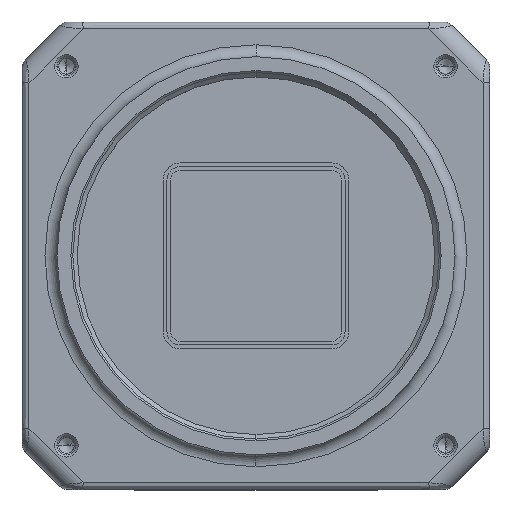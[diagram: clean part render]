
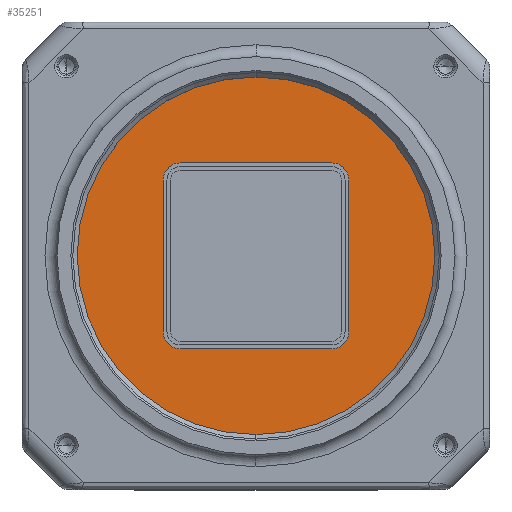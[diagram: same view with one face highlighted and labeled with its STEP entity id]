
A CAD part, top view. The second image highlights one B-rep face of the part: STEP entity #35251.
In plain terms, the highlighted planar face has unit normal (0, 0, 1).
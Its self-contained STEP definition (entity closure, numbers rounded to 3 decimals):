
#641=DIRECTION('',(1.,0.,0.));
#642=VECTOR('',#641,24.);
#643=CARTESIAN_POINT('',(-12.,14.7,5.));
#644=LINE('',#643,#642);
#645=CARTESIAN_POINT('',(0.,0.,5.));
#646=DIRECTION('',(0.,0.,-1.));
#647=DIRECTION('',(0.,-1.,0.));
#648=AXIS2_PLACEMENT_3D('',#645,#646,#647);
#650=CARTESIAN_POINT('',(0.,0.,5.));
#651=DIRECTION('',(0.,0.,-1.));
#652=DIRECTION('',(0.,1.,0.));
#653=AXIS2_PLACEMENT_3D('',#650,#651,#652);
#655=CARTESIAN_POINT('',(-12.,12.,5.));
#656=DIRECTION('',(0.,0.,1.));
#657=DIRECTION('',(0.,1.,0.));
#658=AXIS2_PLACEMENT_3D('',#655,#656,#657);
#660=CARTESIAN_POINT('',(-12.,-12.,5.));
#661=DIRECTION('',(0.,0.,1.));
#662=DIRECTION('',(-1.,0.,0.));
#663=AXIS2_PLACEMENT_3D('',#660,#661,#662);
#665=CARTESIAN_POINT('',(12.,-12.,5.));
#666=DIRECTION('',(0.,0.,1.));
#667=DIRECTION('',(0.,-1.,0.));
#668=AXIS2_PLACEMENT_3D('',#665,#666,#667);
#670=CARTESIAN_POINT('',(12.,12.,5.));
#671=DIRECTION('',(0.,0.,1.));
#672=DIRECTION('',(1.,0.,0.));
#673=AXIS2_PLACEMENT_3D('',#670,#671,#672);
#27187=DIRECTION('',(0.,1.,0.));
#27188=VECTOR('',#27187,24.);
#27189=CARTESIAN_POINT('',(-14.7,-12.,5.));
#27190=LINE('',#27189,#27188);
#27199=DIRECTION('',(-1.,0.,0.));
#27200=VECTOR('',#27199,24.);
#27201=CARTESIAN_POINT('',(12.,-14.7,5.));
#27202=LINE('',#27201,#27200);
#27211=DIRECTION('',(0.,-1.,0.));
#27212=VECTOR('',#27211,24.);
#27213=CARTESIAN_POINT('',(14.7,12.,5.));
#27214=LINE('',#27213,#27212);
#28370=CARTESIAN_POINT('',(0.,28.3,5.));
#28371=VERTEX_POINT('',#28370);
#28372=CARTESIAN_POINT('',(0.,-28.3,5.));
#28373=VERTEX_POINT('',#28372);
#28374=CARTESIAN_POINT('',(-12.,14.7,5.));
#28375=CARTESIAN_POINT('',(-14.7,12.,5.));
#28376=VERTEX_POINT('',#28374);
#28377=VERTEX_POINT('',#28375);
#28378=CARTESIAN_POINT('',(-14.7,-12.,5.));
#28379=CARTESIAN_POINT('',(-12.,-14.7,5.));
#28380=VERTEX_POINT('',#28378);
#28381=VERTEX_POINT('',#28379);
#28382=CARTESIAN_POINT('',(12.,-14.7,5.));
#28383=CARTESIAN_POINT('',(14.7,-12.,5.));
#28384=VERTEX_POINT('',#28382);
#28385=VERTEX_POINT('',#28383);
#28386=CARTESIAN_POINT('',(14.7,12.,5.));
#28387=CARTESIAN_POINT('',(12.,14.7,5.));
#28388=VERTEX_POINT('',#28386);
#28389=VERTEX_POINT('',#28387);
#35223=CARTESIAN_POINT('',(0.,0.,5.));
#35224=DIRECTION('',(0.,0.,1.));
#35225=DIRECTION('',(0.,1.,0.));
#35226=AXIS2_PLACEMENT_3D('',#35223,#35224,#35225);
#35227=PLANE('',#35226);
#35229=ORIENTED_EDGE('',*,*,#35228,.T.);
#35231=ORIENTED_EDGE('',*,*,#35230,.T.);
#35232=EDGE_LOOP('',(#35229,#35231));
#35233=FACE_OUTER_BOUND('',#35232,.F.);
#35234=ORIENTED_EDGE('',*,*,#35213,.F.);
#35236=ORIENTED_EDGE('',*,*,#35235,.T.);
#35238=ORIENTED_EDGE('',*,*,#35237,.F.);
#35240=ORIENTED_EDGE('',*,*,#35239,.T.);
#35242=ORIENTED_EDGE('',*,*,#35241,.F.);
#35244=ORIENTED_EDGE('',*,*,#35243,.T.);
#35246=ORIENTED_EDGE('',*,*,#35245,.F.);
#35248=ORIENTED_EDGE('',*,*,#35247,.T.);
#35249=EDGE_LOOP('',(#35234,#35236,#35238,#35240,#35242,#35244,#35246,#35248));
#35250=FACE_BOUND('',#35249,.F.);
#35251=ADVANCED_FACE('',(#35233,#35250),#35227,.T.);
#649=CIRCLE('',#648,28.3);
#654=CIRCLE('',#653,28.3);
#659=CIRCLE('',#658,2.7);
#664=CIRCLE('',#663,2.7);
#669=CIRCLE('',#668,2.7);
#674=CIRCLE('',#673,2.7);
#35213=EDGE_CURVE('',#28376,#28389,#644,.T.);
#35228=EDGE_CURVE('',#28373,#28371,#649,.T.);
#35230=EDGE_CURVE('',#28371,#28373,#654,.T.);
#35235=EDGE_CURVE('',#28376,#28377,#659,.T.);
#35237=EDGE_CURVE('',#28380,#28377,#27190,.T.);
#35239=EDGE_CURVE('',#28380,#28381,#664,.T.);
#35241=EDGE_CURVE('',#28384,#28381,#27202,.T.);
#35243=EDGE_CURVE('',#28384,#28385,#669,.T.);
#35245=EDGE_CURVE('',#28388,#28385,#27214,.T.);
#35247=EDGE_CURVE('',#28388,#28389,#674,.T.);
